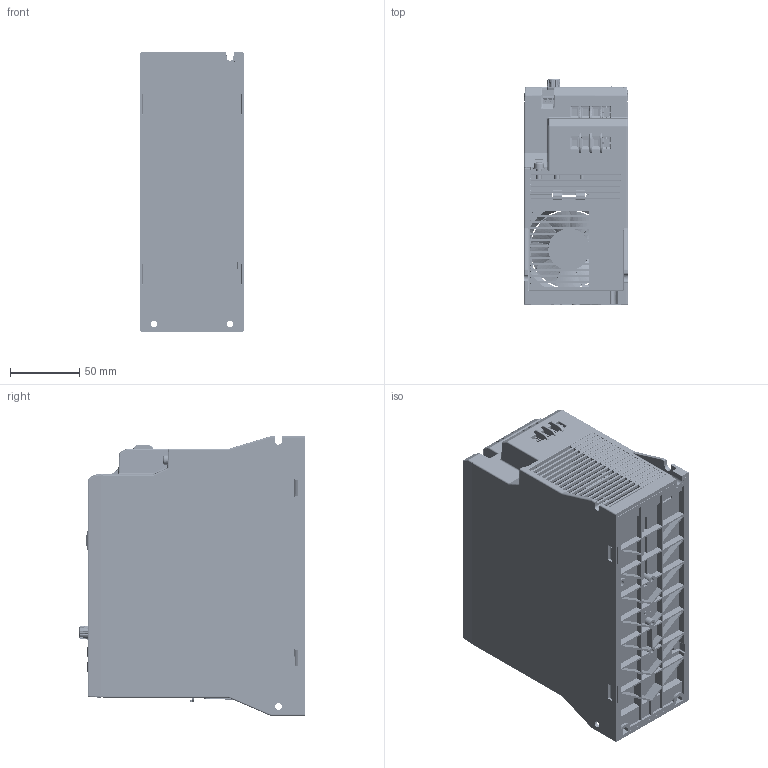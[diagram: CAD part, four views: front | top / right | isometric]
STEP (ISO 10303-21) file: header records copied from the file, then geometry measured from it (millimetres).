
FILE_DESCRIPTION(/* description */ (''),/* implementation_level */ '2;1');
FILE_NAME(/* name */ 'C:\Users\U390257\OneDrive - Danfoss\Documents\Работа\Текущие задачи\2022.04.26 Veichi 3D\Готовые модели\ac10-t3-004_5r5-3d\ac10-t3-004_5r5-3d.stp',/* time_stamp */ '2022-04-27T11:38:41+03:00',/* author */ ('U390257'),/* organization */ (''),/* preprocessor_version */ 'ST-DEVELOPER v18.1',/* originating_system */ 'Autodesk Inventor 2020',/* authorisation */ '');
FILE_SCHEMA (('AUTOMOTIVE_DESIGN { 1 0 10303 214 3 1 1 }'));
Products named in the file (1): ac10-t3-004_5r5-3d
Bounding box: 75 x 162.95 x 202 mm (x, y, z)
Volume: 327051.1 mm3; surface area: 315293.9 mm2
Topology: 75 solids, 100 shells, 11381 faces, 30744 edges, 20153 vertices
Faces by surface type: plane 6916, bspline 2219, cylinder 1572, cone 434, torus 188, sphere 52
Full cylindrical faces by diameter (mm): 0.2 x15, 0.3 x8, 0.5 x30, 0.508 x10, 0.65 x1, 0.7 x2, 0.75 x11, 0.8 x15, 0.9 x16, 1.1 x1, 1.2 x4, 1.25 x2, 1.3 x6, 1.4 x1, 1.5 x2, 1.64 x132, 1.7 x25, 2 x3, 2.1 x13, 2.5 x4, 2.8 x15, 2.9 x12, 3 x11, 3.218 x6, 3.5 x6, 3.8 x3, 4 x6, 4.2 x1, 4.4 x8, 4.7 x8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
Entity records: 490319 total; most frequent: CARTESIAN_POINT 206290, ORIENTED_EDGE 61304, DIRECTION 50982, EDGE_CURVE 30666, LINE 20410, VECTOR 20410, VERTEX_POINT 20009, AXIS2_PLACEMENT_3D 15286
